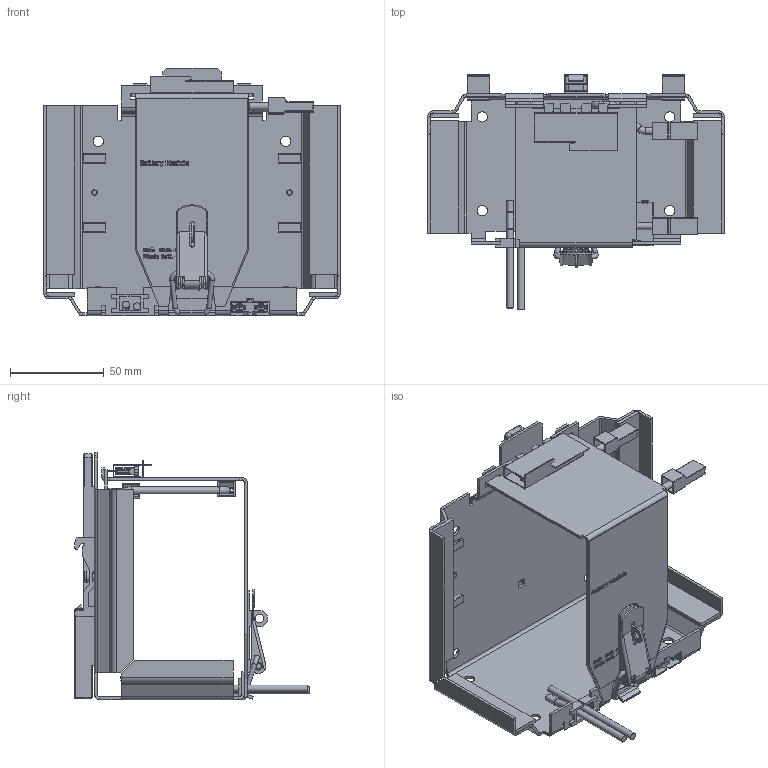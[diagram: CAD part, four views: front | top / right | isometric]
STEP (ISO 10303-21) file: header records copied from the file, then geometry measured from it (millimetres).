
FILE_DESCRIPTION(/* description */ (''),/* implementation_level */ '2;1');
FILE_NAME(/* name */ 'L:\MKT-GER\Neue Webdokumente\Daten von KO\Internet\UZO_12_072 (429.09)\md3_uzo12_072.stp',/* time_stamp */ '2018-01-10T09:34:45+01:00',/* author */ ('rahns'),/* organization */ (''),/* preprocessor_version */ 'ST-DEVELOPER v17',/* originating_system */ 'Autodesk Inventor 2018',/* authorisation */ '');
FILE_SCHEMA (('CONFIG_CONTROL_DESIGN'));
Products named in the file (22): 429.09; BATTERY BRACKET 429.00; BATTERY CLAMP 429.00; MKT_LOCK; CABLE2_429.00; WI-429.780.00_Kabel1_Einbaulage; CABLE1_429.00; FH-FKH-10; FH-FKH_CONT-10; XS-STEHU6_5-22; XS-HOUSING_1P-21; WI-429.790.00_Kabel1_Einbaulage; WI-429.790.00_Kabel2_Einbaulage; MKT-CABLEHOLDER; MKT_TAPE_60MM; MKT_TAPE_90MM; MKT_T HOLDER2; MKT_SCREW 3x6; MKT_SLIDER; MKT_FUSEBOX; MKT_FUSE; FRONTFOIL 429.00
Assembly tree (29 placements, depth 3):
  429.09
    BATTERY BRACKET 429.00
    BATTERY CLAMP 429.00
    MKT_LOCK
    CABLE2_429.00
      XS-HOUSING_1P-21
      XS-STEHU6_5-22
      WI-429.780.00_Kabel1_Einbaulage
    CABLE1_429.00
      FH-FKH-10
      FH-FKH_CONT-10  x2
      XS-STEHU6_5-22
      XS-HOUSING_1P-21
      WI-429.790.00_Kabel1_Einbaulage
      WI-429.790.00_Kabel2_Einbaulage
    MKT-CABLEHOLDER
    MKT_TAPE_60MM  x2
    MKT_TAPE_90MM  x2
    MKT_T HOLDER2  x2
    MKT_SCREW 3x6  x2
    MKT_SLIDER
    MKT_FUSEBOX
    MKT_FUSE  x2
    FRONTFOIL 429.00
Bounding box: 158 x 125.2 x 132 mm (x, y, z)
Volume: 105674.9 mm3; surface area: 146267.9 mm2
Topology: 34 solids, 34 shells, 2068 faces, 5507 edges, 3546 vertices
Faces by surface type: plane 1349, cylinder 420, bspline 251, torus 28, sphere 16, cone 4
Full cylindrical faces by diameter (mm): 0.7 x2, 1.8 x3, 2.45 x5, 2.65 x2, 3 x11, 3.5 x2, 3.7 x12, 4 x3, 4.2 x2, 4.7 x1, 4.9 x1, 5.5 x8, 6 x2
Entity records: 57004 total; most frequent: CARTESIAN_POINT 15158, ORIENTED_EDGE 8784, DIRECTION 7506, EDGE_CURVE 4392, LINE 3194, VECTOR 3194, VERTEX_POINT 2833, AXIS2_PLACEMENT_3D 2156
